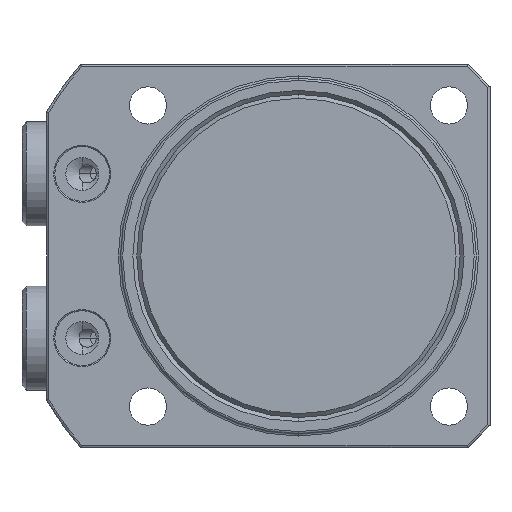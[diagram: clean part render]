
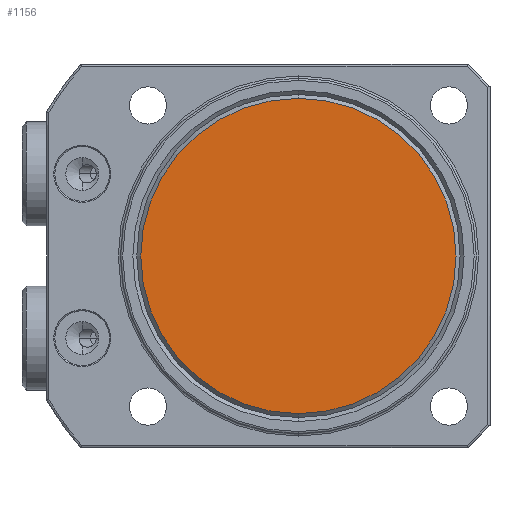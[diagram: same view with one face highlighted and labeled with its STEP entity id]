
A CAD part, front view. The second image highlights one B-rep face of the part: STEP entity #1156.
In plain terms, the highlighted planar face has unit normal (0, -1, 0) as drawn and (1, 0, 0) by its records, which use the part's own axes.
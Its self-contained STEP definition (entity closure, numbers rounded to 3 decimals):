
#872=PLANE('',#4353);
#1156=ADVANCED_FACE('',(#1401),#872,.T.);
#1401=FACE_OUTER_BOUND('',#1601,.T.);
#1601=EDGE_LOOP('',(#2765,#2766));
#2765=ORIENTED_EDGE('',*,*,#3647,.F.);
#2766=ORIENTED_EDGE('',*,*,#3763,.F.);
#3240=VERTEX_POINT('',#6497);
#3241=VERTEX_POINT('',#6498);
#3647=EDGE_CURVE('',#3240,#3241,#3961,.T.);
#3763=EDGE_CURVE('',#3241,#3240,#4004,.T.);
#3961=CIRCLE('',#4281,28.8);
#4004=CIRCLE('',#4352,28.8);
#4281=AXIS2_PLACEMENT_3D('',#6496,#5049,#5050);
#4352=AXIS2_PLACEMENT_3D('',#6966,#5245,#5246);
#4353=AXIS2_PLACEMENT_3D('',#6967,#5247,#5248);
#5049=DIRECTION('',(-1.,0.,0.));
#5050=DIRECTION('',(0.,0.,1.));
#5245=DIRECTION('',(-1.,0.,0.));
#5246=DIRECTION('',(0.,0.,1.));
#5247=DIRECTION('',(1.,0.,0.));
#5248=DIRECTION('',(0.,0.,1.));
#6496=CARTESIAN_POINT('',(63.,0.,0.));
#6497=CARTESIAN_POINT('',(63.,0.,28.8));
#6498=CARTESIAN_POINT('',(63.,0.,-28.8));
#6966=CARTESIAN_POINT('',(63.,0.,0.));
#6967=CARTESIAN_POINT('',(63.,0.,0.));
